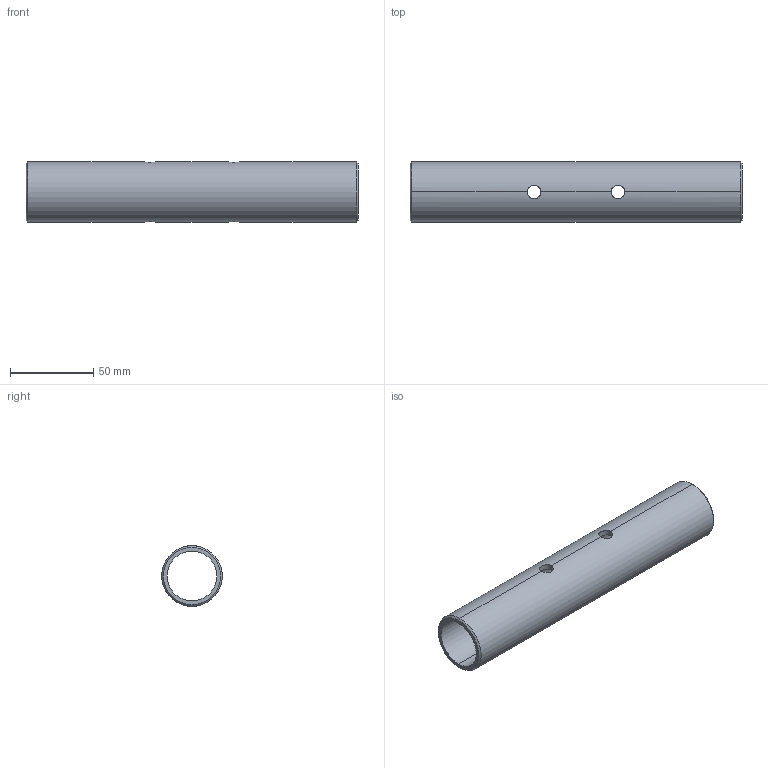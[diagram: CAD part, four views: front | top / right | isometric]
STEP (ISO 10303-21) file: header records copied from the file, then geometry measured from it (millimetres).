
FILE_DESCRIPTION (( 'STEP AP203' ), '1' );
FILE_NAME ('RAILEX STANDARD RXR-TRJ.STEP', '2021-06-17T15:37:47', ( '' ), ( '' ), 'SwSTEP 2.0', 'SolidWorks 2020', '' );
FILE_SCHEMA (( 'CONFIG_CONTROL_DESIGN' ));
Length unit declared in the file: millimetre
Products named in the file (1): RAILEX STANDARD RXR-TRJ
Bounding box: 200 x 36.5 x 36.5 mm (x, y, z)
Volume: 67093.2 mm3; surface area: 42239.6 mm2
Topology: 1 solids, 1 shells, 18 faces, 52 edges, 28 vertices
Faces by surface type: cylinder 12, cone 4, plane 2
Entity records: 1153 total; most frequent: CARTESIAN_POINT 619, ORIENTED_EDGE 104, DIRECTION 86, EDGE_CURVE 52, AXIS2_PLACEMENT_3D 31, VERTEX_POINT 28, LINE 24, VECTOR 24
